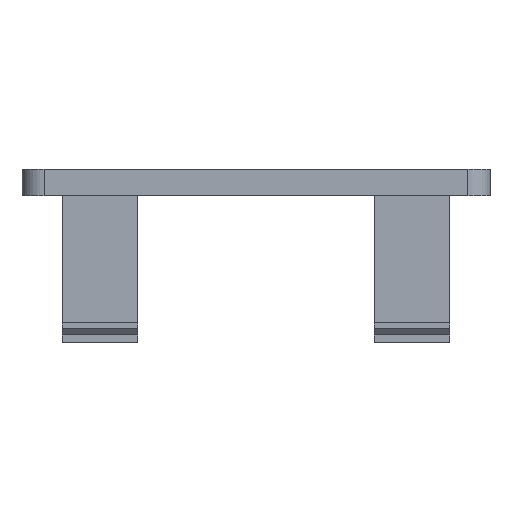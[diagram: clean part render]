
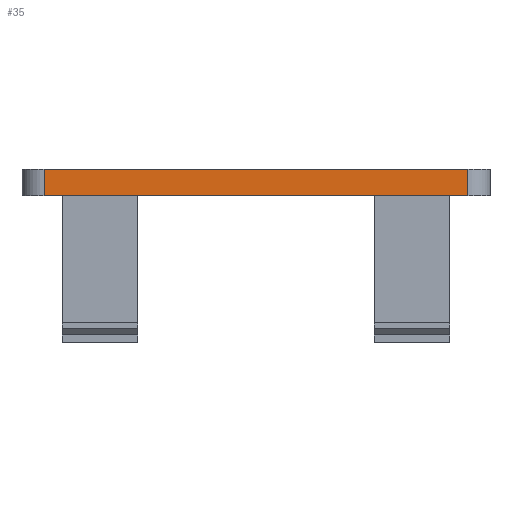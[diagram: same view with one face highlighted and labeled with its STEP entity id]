
A CAD part, left-side view. The second image highlights one B-rep face of the part: STEP entity #35.
In plain terms, the highlighted planar face has unit normal (-1, 0, 0).
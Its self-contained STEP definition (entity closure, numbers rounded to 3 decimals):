
#35 = ADVANCED_FACE('',(#36),#50,.F.);
#36 = FACE_BOUND('',#37,.F.);
#37 = EDGE_LOOP('',(#38,#73,#101,#129));
#38 = ORIENTED_EDGE('',*,*,#39,.F.);
#39 = EDGE_CURVE('',#40,#42,#44,.T.);
#40 = VERTEX_POINT('',#41);
#41 = CARTESIAN_POINT('',(11.,-13.5,50.8));
#42 = VERTEX_POINT('',#43);
#43 = CARTESIAN_POINT('',(11.,5.5,50.8));
#44 = SURFACE_CURVE('',#45,(#49,#61),.PCURVE_S1.);
#45 = LINE('',#46,#47);
#46 = CARTESIAN_POINT('',(11.,-14.5,50.8));
#47 = VECTOR('',#48,1.);
#48 = DIRECTION('',(0.,1.,0.));
#49 = PCURVE('',#50,#55);
#50 = PLANE('',#51);
#51 = AXIS2_PLACEMENT_3D('',#52,#53,#54);
#52 = CARTESIAN_POINT('',(11.,-14.5,49.6));
#53 = DIRECTION('',(1.,0.,0.));
#54 = DIRECTION('',(0.,0.,1.));
#55 = DEFINITIONAL_REPRESENTATION('',(#56),#60);
#56 = LINE('',#57,#58);
#57 = CARTESIAN_POINT('',(1.2,0.));
#58 = VECTOR('',#59,1.);
#59 = DIRECTION('',(0.,-1.));
#60 = ( GEOMETRIC_REPRESENTATION_CONTEXT(2) 
PARAMETRIC_REPRESENTATION_CONTEXT() REPRESENTATION_CONTEXT('2D SPACE',''
  ) );
#61 = PCURVE('',#62,#67);
#62 = PLANE('',#63);
#63 = AXIS2_PLACEMENT_3D('',#64,#65,#66);
#64 = CARTESIAN_POINT('',(11.,-14.5,50.8));
#65 = DIRECTION('',(0.,0.,1.));
#66 = DIRECTION('',(1.,0.,0.));
#67 = DEFINITIONAL_REPRESENTATION('',(#68),#72);
#68 = LINE('',#69,#70);
#69 = CARTESIAN_POINT('',(0.,0.));
#70 = VECTOR('',#71,1.);
#71 = DIRECTION('',(0.,1.));
#72 = ( GEOMETRIC_REPRESENTATION_CONTEXT(2) 
PARAMETRIC_REPRESENTATION_CONTEXT() REPRESENTATION_CONTEXT('2D SPACE',''
  ) );
#73 = ORIENTED_EDGE('',*,*,#74,.F.);
#74 = EDGE_CURVE('',#75,#40,#77,.T.);
#75 = VERTEX_POINT('',#76);
#76 = CARTESIAN_POINT('',(11.,-13.5,49.6));
#77 = SURFACE_CURVE('',#78,(#82,#89),.PCURVE_S1.);
#78 = LINE('',#79,#80);
#79 = CARTESIAN_POINT('',(11.,-13.5,49.6));
#80 = VECTOR('',#81,1.);
#81 = DIRECTION('',(0.,0.,1.));
#82 = PCURVE('',#50,#83);
#83 = DEFINITIONAL_REPRESENTATION('',(#84),#88);
#84 = LINE('',#85,#86);
#85 = CARTESIAN_POINT('',(0.,-1.));
#86 = VECTOR('',#87,1.);
#87 = DIRECTION('',(1.,0.));
#88 = ( GEOMETRIC_REPRESENTATION_CONTEXT(2) 
PARAMETRIC_REPRESENTATION_CONTEXT() REPRESENTATION_CONTEXT('2D SPACE',''
  ) );
#89 = PCURVE('',#90,#95);
#90 = CYLINDRICAL_SURFACE('',#91,1.);
#91 = AXIS2_PLACEMENT_3D('',#92,#93,#94);
#92 = CARTESIAN_POINT('',(12.,-13.5,49.6));
#93 = DIRECTION('',(0.,0.,1.));
#94 = DIRECTION('',(-1.,-0.,0.));
#95 = DEFINITIONAL_REPRESENTATION('',(#96),#100);
#96 = LINE('',#97,#98);
#97 = CARTESIAN_POINT('',(0.,0.));
#98 = VECTOR('',#99,1.);
#99 = DIRECTION('',(0.,1.));
#100 = ( GEOMETRIC_REPRESENTATION_CONTEXT(2) 
PARAMETRIC_REPRESENTATION_CONTEXT() REPRESENTATION_CONTEXT('2D SPACE',''
  ) );
#101 = ORIENTED_EDGE('',*,*,#102,.T.);
#102 = EDGE_CURVE('',#75,#103,#105,.T.);
#103 = VERTEX_POINT('',#104);
#104 = CARTESIAN_POINT('',(11.,5.5,49.6));
#105 = SURFACE_CURVE('',#106,(#110,#117),.PCURVE_S1.);
#106 = LINE('',#107,#108);
#107 = CARTESIAN_POINT('',(11.,-14.5,49.6));
#108 = VECTOR('',#109,1.);
#109 = DIRECTION('',(0.,1.,0.));
#110 = PCURVE('',#50,#111);
#111 = DEFINITIONAL_REPRESENTATION('',(#112),#116);
#112 = LINE('',#113,#114);
#113 = CARTESIAN_POINT('',(0.,0.));
#114 = VECTOR('',#115,1.);
#115 = DIRECTION('',(0.,-1.));
#116 = ( GEOMETRIC_REPRESENTATION_CONTEXT(2) 
PARAMETRIC_REPRESENTATION_CONTEXT() REPRESENTATION_CONTEXT('2D SPACE',''
  ) );
#117 = PCURVE('',#118,#123);
#118 = PLANE('',#119);
#119 = AXIS2_PLACEMENT_3D('',#120,#121,#122);
#120 = CARTESIAN_POINT('',(11.,-14.5,49.6));
#121 = DIRECTION('',(0.,0.,1.));
#122 = DIRECTION('',(1.,0.,0.));
#123 = DEFINITIONAL_REPRESENTATION('',(#124),#128);
#124 = LINE('',#125,#126);
#125 = CARTESIAN_POINT('',(0.,0.));
#126 = VECTOR('',#127,1.);
#127 = DIRECTION('',(0.,1.));
#128 = ( GEOMETRIC_REPRESENTATION_CONTEXT(2) 
PARAMETRIC_REPRESENTATION_CONTEXT() REPRESENTATION_CONTEXT('2D SPACE',''
  ) );
#129 = ORIENTED_EDGE('',*,*,#130,.T.);
#130 = EDGE_CURVE('',#103,#42,#131,.T.);
#131 = SURFACE_CURVE('',#132,(#136,#143),.PCURVE_S1.);
#132 = LINE('',#133,#134);
#133 = CARTESIAN_POINT('',(11.,5.5,49.6));
#134 = VECTOR('',#135,1.);
#135 = DIRECTION('',(0.,0.,1.));
#136 = PCURVE('',#50,#137);
#137 = DEFINITIONAL_REPRESENTATION('',(#138),#142);
#138 = LINE('',#139,#140);
#139 = CARTESIAN_POINT('',(0.,-20.));
#140 = VECTOR('',#141,1.);
#141 = DIRECTION('',(1.,0.));
#142 = ( GEOMETRIC_REPRESENTATION_CONTEXT(2) 
PARAMETRIC_REPRESENTATION_CONTEXT() REPRESENTATION_CONTEXT('2D SPACE',''
  ) );
#143 = PCURVE('',#144,#149);
#144 = CYLINDRICAL_SURFACE('',#145,1.);
#145 = AXIS2_PLACEMENT_3D('',#146,#147,#148);
#146 = CARTESIAN_POINT('',(12.,5.5,49.6));
#147 = DIRECTION('',(0.,0.,1.));
#148 = DIRECTION('',(-1.,-0.,0.));
#149 = DEFINITIONAL_REPRESENTATION('',(#150),#154);
#150 = LINE('',#151,#152);
#151 = CARTESIAN_POINT('',(-0.,0.));
#152 = VECTOR('',#153,1.);
#153 = DIRECTION('',(-0.,1.));
#154 = ( GEOMETRIC_REPRESENTATION_CONTEXT(2) 
PARAMETRIC_REPRESENTATION_CONTEXT() REPRESENTATION_CONTEXT('2D SPACE',''
  ) );
